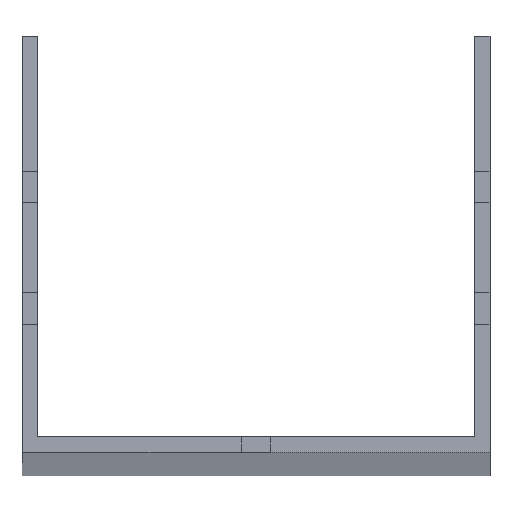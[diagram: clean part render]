
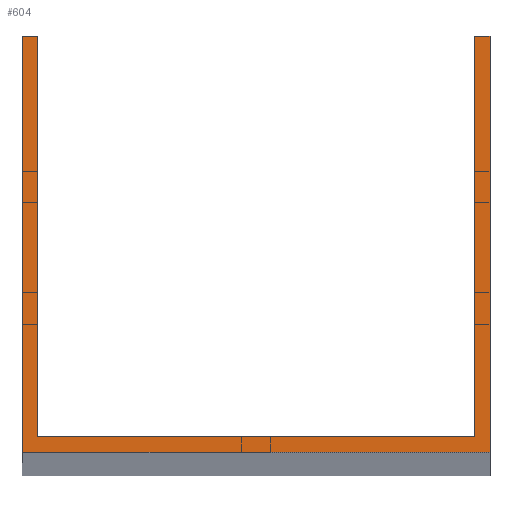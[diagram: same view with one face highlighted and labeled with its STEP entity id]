
A CAD part, top view. The second image highlights one B-rep face of the part: STEP entity #604.
In plain terms, the highlighted planar face has unit normal (0, 0, 1).
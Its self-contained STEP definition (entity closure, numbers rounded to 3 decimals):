
#7 = DIRECTION ( 'NONE',  ( 0., 1., 0. ) ) ;
#106 = CARTESIAN_POINT ( 'NONE',  ( 52., 0., 1500. ) ) ;
#115 = DIRECTION ( 'NONE',  ( 1., 0., 0. ) ) ;
#132 = EDGE_CURVE ( 'NONE', #804, #610, #1420, .T. ) ;
#146 = DIRECTION ( 'NONE',  ( -1., 0., 0. ) ) ;
#169 = VERTEX_POINT ( 'NONE', #1676 ) ;
#172 = EDGE_CURVE ( 'NONE', #179, #662, #1285, .T. ) ;
#177 = VECTOR ( 'NONE', #146, 1000. ) ;
#179 = VERTEX_POINT ( 'NONE', #106 ) ;
#196 = PLANE ( 'NONE',  #1138 ) ;
#230 = VECTOR ( 'NONE', #480, 1000. ) ;
#284 = ORIENTED_EDGE ( 'NONE', *, *, #1474, .T. ) ;
#326 = VERTEX_POINT ( 'NONE', #523 ) ;
#374 = CARTESIAN_POINT ( 'NONE',  ( 52., 92.5, 1500. ) ) ;
#410 = VECTOR ( 'NONE', #1244, 1000. ) ;
#424 = EDGE_LOOP ( 'NONE', ( #744, #782, #1350, #284, #1467, #1239, #1567, #806 ) ) ;
#453 = CARTESIAN_POINT ( 'NONE',  ( 48.5, 3.5, 1500. ) ) ;
#480 = DIRECTION ( 'NONE',  ( 1., 0., 0. ) ) ;
#487 = LINE ( 'NONE', #778, #819 ) ;
#506 = LINE ( 'NONE', #524, #177 ) ;
#507 = CARTESIAN_POINT ( 'NONE',  ( 48.5, 92.5, 1500. ) ) ;
#523 = CARTESIAN_POINT ( 'NONE',  ( -52., 0., 1500. ) ) ;
#524 = CARTESIAN_POINT ( 'NONE',  ( -52., 92.5, 1500. ) ) ;
#570 = FACE_OUTER_BOUND ( 'NONE', #424, .T. ) ;
#581 = DIRECTION ( 'NONE',  ( 0., 0., 1. ) ) ;
#604 = ADVANCED_FACE ( 'NONE', ( #570 ), #196, .T. ) ;
#610 = VERTEX_POINT ( 'NONE', #453 ) ;
#615 = CARTESIAN_POINT ( 'NONE',  ( -48.5, 92.5, 1500. ) ) ;
#621 = EDGE_CURVE ( 'NONE', #662, #169, #1527, .T. ) ;
#634 = LINE ( 'NONE', #507, #1228 ) ;
#638 = DIRECTION ( 'NONE',  ( 0., 1., 0. ) ) ;
#662 = VERTEX_POINT ( 'NONE', #872 ) ;
#681 = VECTOR ( 'NONE', #638, 1000. ) ;
#744 = ORIENTED_EDGE ( 'NONE', *, *, #747, .F. ) ;
#746 = VERTEX_POINT ( 'NONE', #615 ) ;
#747 = EDGE_CURVE ( 'NONE', #746, #804, #487, .T. ) ;
#777 = CARTESIAN_POINT ( 'NONE',  ( -52., 3.5, 1500. ) ) ;
#778 = CARTESIAN_POINT ( 'NONE',  ( -48.5, 92.5, 1500. ) ) ;
#781 = EDGE_CURVE ( 'NONE', #746, #1596, #506, .T. ) ;
#782 = ORIENTED_EDGE ( 'NONE', *, *, #781, .T. ) ;
#804 = VERTEX_POINT ( 'NONE', #1021 ) ;
#806 = ORIENTED_EDGE ( 'NONE', *, *, #132, .F. ) ;
#819 = VECTOR ( 'NONE', #1677, 1000. ) ;
#872 = CARTESIAN_POINT ( 'NONE',  ( 52., 92.5, 1500. ) ) ;
#896 = LINE ( 'NONE', #905, #1060 ) ;
#905 = CARTESIAN_POINT ( 'NONE',  ( -52., 92.5, 1500. ) ) ;
#1021 = CARTESIAN_POINT ( 'NONE',  ( -48.5, 3.5, 1500. ) ) ;
#1060 = VECTOR ( 'NONE', #1159, 1000. ) ;
#1138 = AXIS2_PLACEMENT_3D ( 'NONE', #1604, #581, #1617 ) ;
#1159 = DIRECTION ( 'NONE',  ( 0., -1., 0. ) ) ;
#1171 = CARTESIAN_POINT ( 'NONE',  ( -52., 92.5, 1500. ) ) ;
#1228 = VECTOR ( 'NONE', #7, 1000. ) ;
#1239 = ORIENTED_EDGE ( 'NONE', *, *, #621, .T. ) ;
#1244 = DIRECTION ( 'NONE',  ( -1., 0., 0. ) ) ;
#1269 = CARTESIAN_POINT ( 'NONE',  ( -52., 0., 1500. ) ) ;
#1285 = LINE ( 'NONE', #374, #681 ) ;
#1350 = ORIENTED_EDGE ( 'NONE', *, *, #1419, .T. ) ;
#1419 = EDGE_CURVE ( 'NONE', #1596, #326, #896, .T. ) ;
#1420 = LINE ( 'NONE', #777, #230 ) ;
#1467 = ORIENTED_EDGE ( 'NONE', *, *, #172, .T. ) ;
#1474 = EDGE_CURVE ( 'NONE', #326, #179, #1543, .T. ) ;
#1506 = EDGE_CURVE ( 'NONE', #610, #169, #634, .T. ) ;
#1516 = CARTESIAN_POINT ( 'NONE',  ( -52., 92.5, 1500. ) ) ;
#1527 = LINE ( 'NONE', #1516, #410 ) ;
#1543 = LINE ( 'NONE', #1269, #1611 ) ;
#1567 = ORIENTED_EDGE ( 'NONE', *, *, #1506, .F. ) ;
#1596 = VERTEX_POINT ( 'NONE', #1171 ) ;
#1604 = CARTESIAN_POINT ( 'NONE',  ( 0., 0., 1500. ) ) ;
#1611 = VECTOR ( 'NONE', #115, 1000. ) ;
#1617 = DIRECTION ( 'NONE',  ( 1., 0., 0. ) ) ;
#1676 = CARTESIAN_POINT ( 'NONE',  ( 48.5, 92.5, 1500. ) ) ;
#1677 = DIRECTION ( 'NONE',  ( 0., -1., 0. ) ) ;
